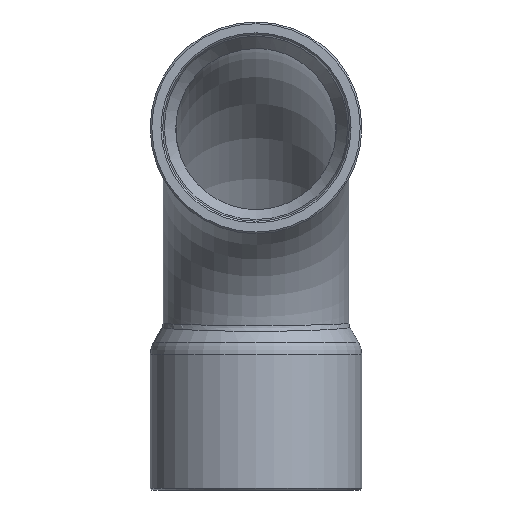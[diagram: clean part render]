
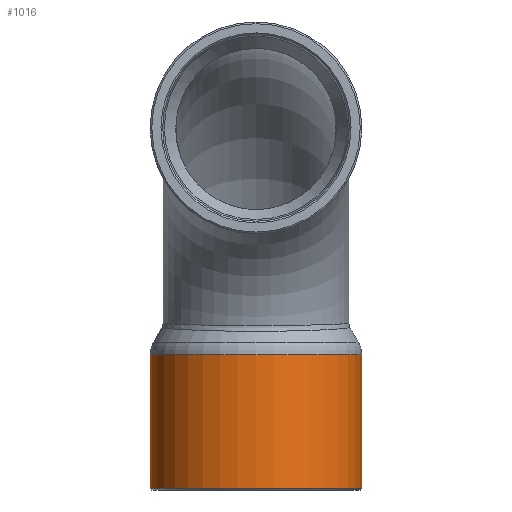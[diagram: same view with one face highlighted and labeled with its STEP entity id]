
A CAD part, front view. The second image highlights one B-rep face of the part: STEP entity #1016.
In plain terms, the highlighted cylindrical face has radius 12.688 mm (diameter 25.375 mm), a full revolution.
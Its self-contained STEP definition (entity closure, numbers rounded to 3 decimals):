
#985=CARTESIAN_POINT('',(0.,39.388,-0.5));
#986=VERTEX_POINT('',#985);
#987=CARTESIAN_POINT('',(0.0,26.7,-0.5));
#988=DIRECTION('',(0.0,0.0,1.0));
#989=DIRECTION('',(0.0,-1.0,0.0));
#990=AXIS2_PLACEMENT_3D('',#987,#988,#989);
#991=CIRCLE('',#990,12.687);
#992=EDGE_CURVE('',#986,#986,#991,.T.);
#997=CARTESIAN_POINT('',(0.0,26.7,-8.198));
#998=DIRECTION('',(0.0,0.,-1.0));
#999=DIRECTION('',(0.0,1.0,0.0));
#1000=AXIS2_PLACEMENT_3D('',#997,#998,#999);
#1001=CYLINDRICAL_SURFACE('',#1000,12.687);
#1002=CARTESIAN_POINT('',(0.,39.387,-16.5));
#1003=VERTEX_POINT('',#1002);
#1004=CARTESIAN_POINT('',(0.0,26.7,-16.5));
#1005=DIRECTION('',(0.0,0.0,-1.0));
#1006=DIRECTION('',(0.0,-1.0,0.0));
#1007=AXIS2_PLACEMENT_3D('',#1004,#1005,#1006);
#1008=CIRCLE('',#1007,12.687);
#1009=EDGE_CURVE('',#1003,#1003,#1008,.T.);
#1010=ORIENTED_EDGE('',*,*,#1009,.F.);
#1011=EDGE_LOOP('',(#1010));
#1012=FACE_OUTER_BOUND('',#1011,.T.);
#1013=ORIENTED_EDGE('',*,*,#992,.F.);
#1014=EDGE_LOOP('',(#1013));
#1015=FACE_BOUND('',#1014,.T.);
#1016=ADVANCED_FACE('',(#1012,#1015),#1001,.T.);
